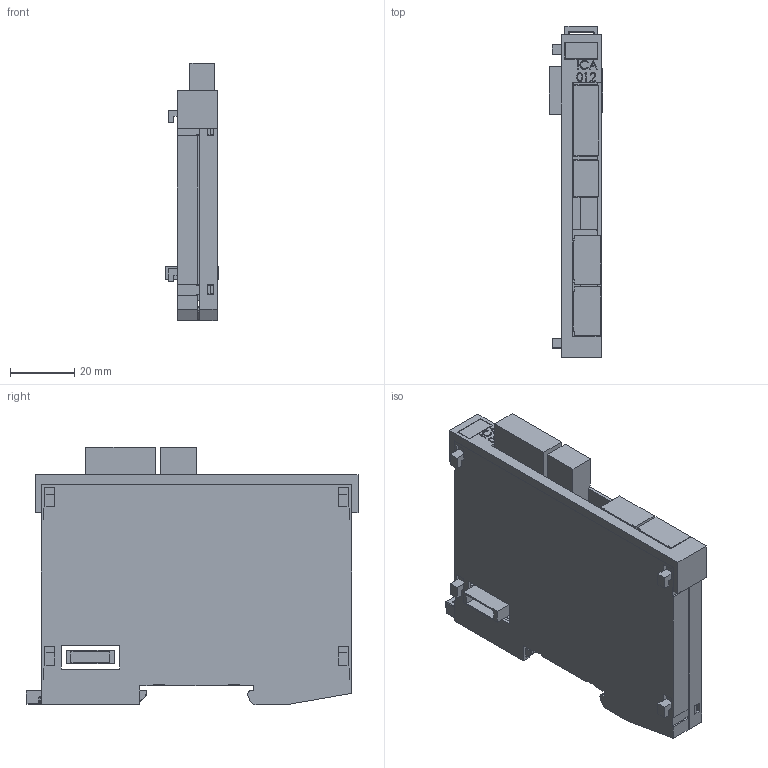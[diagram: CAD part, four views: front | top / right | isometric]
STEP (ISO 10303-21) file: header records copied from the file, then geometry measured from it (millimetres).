
FILE_DESCRIPTION (( 'STEP AP214' ), '1' );
FILE_NAME ('ICA012.STEP', '2017-02-21T08:25:00', ( 'SIGMATEK GmbH & Co KG' ), ( 'SIGMATEK GmbH & Co KG' ), 'SwSTEP 2.0', 'SolidWorks 2015', '' );
FILE_SCHEMA (( 'AUTOMOTIVE_DESIGN' ));
Length unit declared in the file: millimetre
Products named in the file (14): 4110251342_MF 10-5 MC CABUR_1854510000; ICA012; S-Dias Schale links_f Suport; S-Dias Schale rechts_f Suport; LP_ICA012_support; Dummy_4110262171 3pol Stecker 1.5-6-st-3.5_1705386; Dummy_4110262186 6pol Stecker 1.5-6-st-3.5_1707307; Dummy_4110262114_6pol_1937538; Steckerabdeckung_Var 9; Dummy_4080225346 Erni Stift; Dummy_4110262113 3pol Buchse; Dummy_4080225345 Erni Buchse; S-Dias Rasthaken 20130313; Schieber_f Suport
Assembly tree (14 placements, depth 3):
  ICA012
    4110251342_MF 10-5 MC CABUR_1854510000
    Schieber_f Suport
    S-Dias Rasthaken 20130313
    LP_ICA012_support
      Dummy_4080225345 Erni Buchse
      Dummy_4110262113 3pol Buchse
      Dummy_4080225346 Erni Stift
      Steckerabdeckung_Var 9  x2
      Dummy_4110262114_6pol_1937538
      Dummy_4110262186 6pol Stecker 1.5-6-st-3.5_1707307
      Dummy_4110262171 3pol Stecker 1.5-6-st-3.5_1705386
    S-Dias Schale rechts_f Suport
    S-Dias Schale links_f Suport
Bounding box: 16.8 x 103.61 x 80.25 mm (x, y, z)
Volume: 27647.6 mm3; surface area: 43731.5 mm2
Topology: 13 solids, 13 shells, 960 faces, 2766 edges, 1832 vertices
Faces by surface type: plane 683, cylinder 142, bspline 79, cone 28, torus 15, sphere 13
Entity records: 35897 total; most frequent: CARTESIAN_POINT 9731, ORIENTED_EDGE 5146, DIRECTION 3986, EDGE_CURVE 2573, LINE 1858, VECTOR 1858, VERTEX_POINT 1710, AXIS2_PLACEMENT_3D 1064
